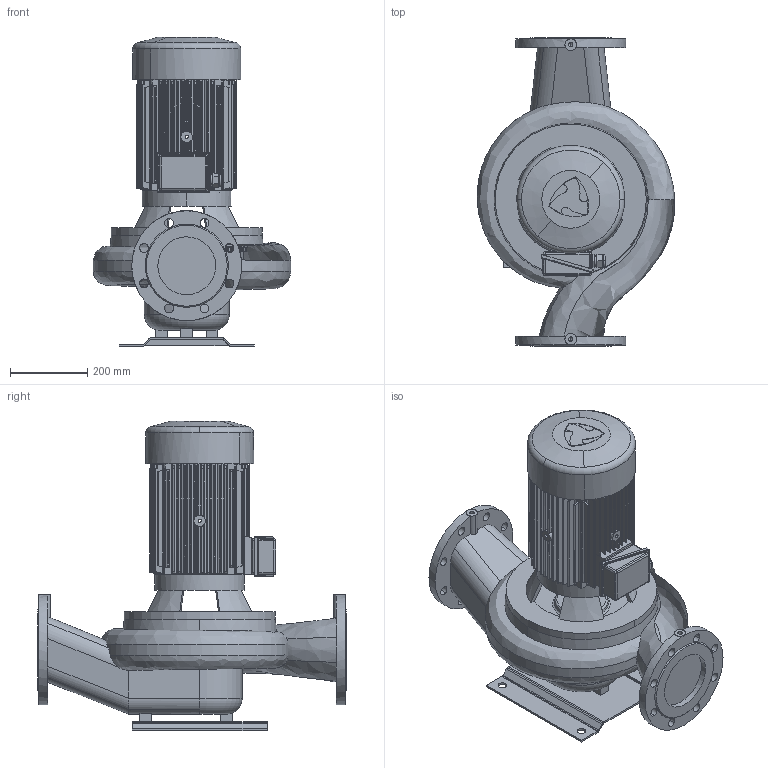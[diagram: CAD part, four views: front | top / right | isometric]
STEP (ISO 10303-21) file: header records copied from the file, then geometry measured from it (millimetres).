
FILE_DESCRIPTION(('STEP AP214'),'1');
FILE_NAME('export.stp','2018-05-28T10:47:32',(' '),(' '),'Spatial InterOp 3D',' ',' ');
FILE_SCHEMA(('AUTOMOTIVE_DESIGN { 1 0 10303 214 1 1 1 1 }'));
Length unit declared in the file: millimetre
Products named in the file (11): W_AL11544750KP134; V_TL110611291154; P100496; P100495; P100342; V_PPAL1154; V_EKF31OKN132133; V_MKP134; TSUOJA_OKN_132_133; KYTKOTELO_OKN_100_133; R201240
Assembly tree (11 placements, depth 3):
  W_AL11544750KP134
    V_TL110611291154
    P100496
      P100495  x2
      P100342
    V_PPAL1154
    V_EKF31OKN132133
    V_MKP134
      TSUOJA_OKN_132_133
      KYTKOTELO_OKN_100_133
      R201240
Bounding box: 512.69 x 800 x 802.5 mm (x, y, z)
Volume: 14699264.2 mm3; surface area: 3043188.6 mm2
Topology: 8 solids, 10 shells, 1195 faces, 3289 edges, 2117 vertices
Faces by surface type: cylinder 644, plane 392, cone 104, torus 23, bspline 20, sphere 12
Entity records: 56758 total; most frequent: CARTESIAN_POINT 14849, ORIENTED_EDGE 6449, DIRECTION 6191, EDGE_CURVE 3231, AXIS2_PLACEMENT_3D 2383, VERTEX_POINT 2109, STYLED_ITEM 1639, PRESENTATION_STYLE_ASSIGNMENT 1639
